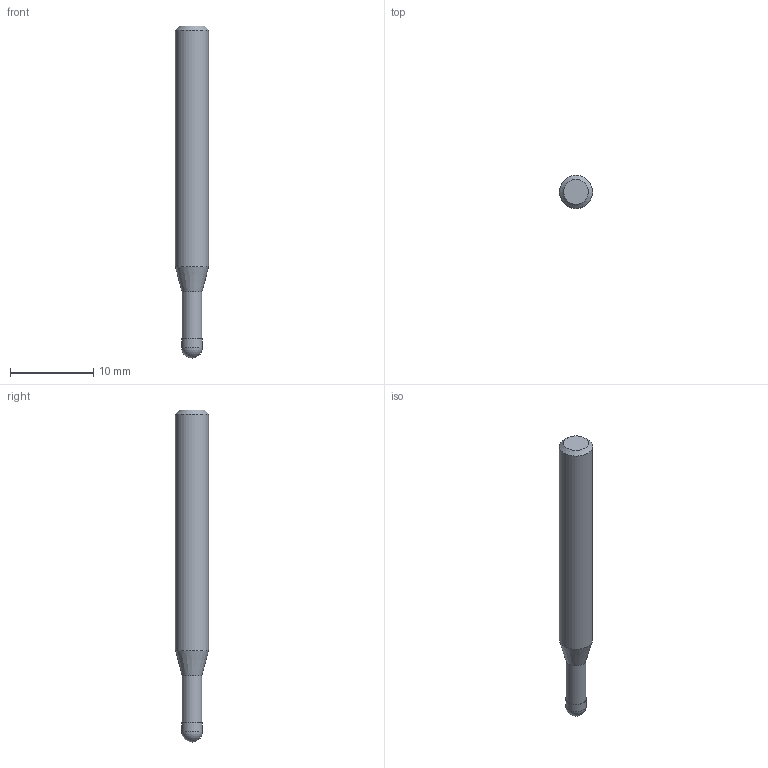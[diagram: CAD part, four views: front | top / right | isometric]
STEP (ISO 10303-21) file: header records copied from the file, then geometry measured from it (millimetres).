
FILE_DESCRIPTION((''),'2;1');
FILE_NAME('C:\Users\nsx150\AppData\Local\Temp\Mastercam 2021\QT8KEW0Y7J\TEMP.step','2021-04-23T11:21:38',(''),(''),'STEP Write','Mastercam 2021 ... CNC Software, Inc.','');
FILE_SCHEMA(('AUTOMOTIVE_DESIGN'));
Length unit declared in the file: millimetre
Products named in the file (1): None
Bounding box: 4 x 4 x 40 mm (x, y, z)
Volume: 422.7 mm3; surface area: 474.7 mm2
Topology: 2 solids, 2 shells, 9 faces, 14 edges, 8 vertices
Faces by surface type: plane 3, cylinder 3, cone 2, sphere 1
Full cylindrical faces by diameter (mm): 2.4 x1, 2.5 x1, 4 x1
Entity records: 211 total; most frequent: DIRECTION 36, CARTESIAN_POINT 25, AXIS2_PLACEMENT_3D 18, ORIENTED_EDGE 14, EDGE_LOOP 14, STYLED_ITEM 12, ADVANCED_FACE 9, FACE_BOUND 8
